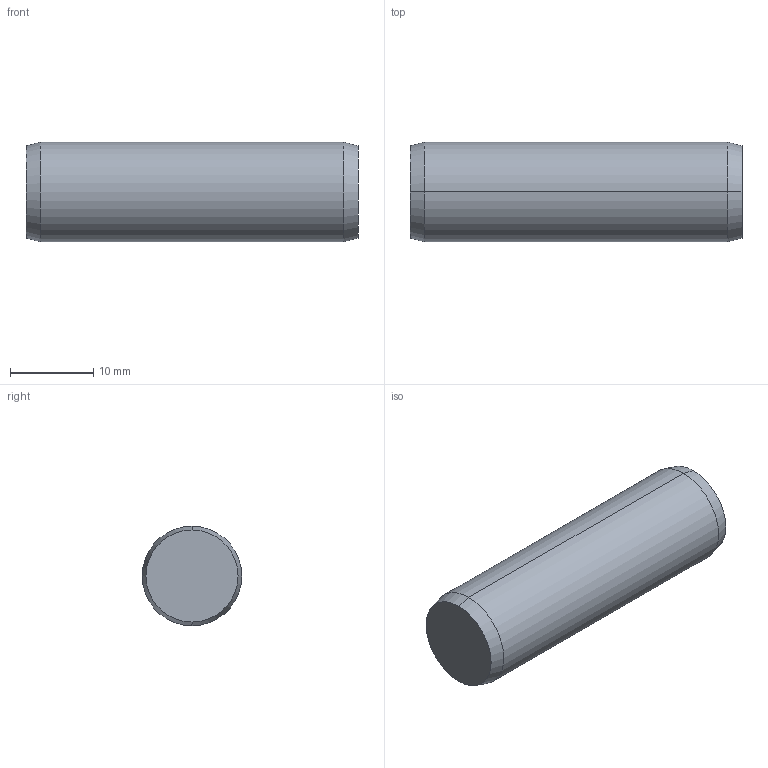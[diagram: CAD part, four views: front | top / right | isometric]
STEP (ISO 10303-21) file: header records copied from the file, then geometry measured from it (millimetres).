
FILE_DESCRIPTION (( 'STEP AP203' ), '1' );
FILE_NAME ('P1206.120-040.step', '2017-06-14T08:38:37', ( 'User' ), ( '' ), 'SwSTEP 2.0', 'SolidWorks 2009', '' );
FILE_SCHEMA (( 'CONFIG_CONTROL_DESIGN' ));
Length unit declared in the file: millimetre
Products named in the file (1): P1206.120-040
Bounding box: 40 x 12 x 12 mm (x, y, z)
Volume: 4495.4 mm3; surface area: 1700.6 mm2
Topology: 1 solids, 1 shells, 8 faces, 14 edges, 8 vertices
Faces by surface type: cone 4, cylinder 2, plane 2
Entity records: 271 total; most frequent: DIRECTION 40, CARTESIAN_POINT 31, ORIENTED_EDGE 28, AXIS2_PLACEMENT_3D 17, EDGE_CURVE 14, ADVANCED_FACE 8, EDGE_LOOP 8, VERTEX_POINT 8
